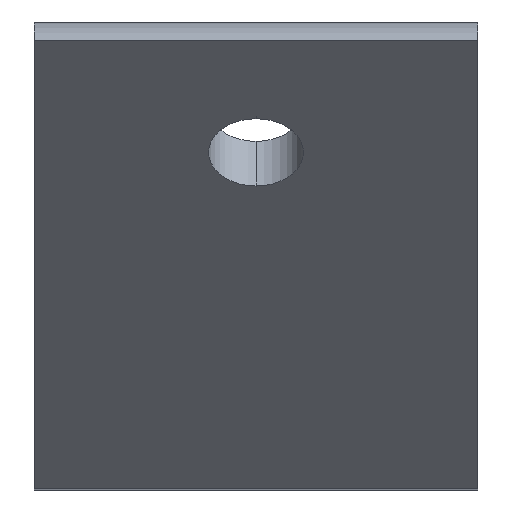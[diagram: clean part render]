
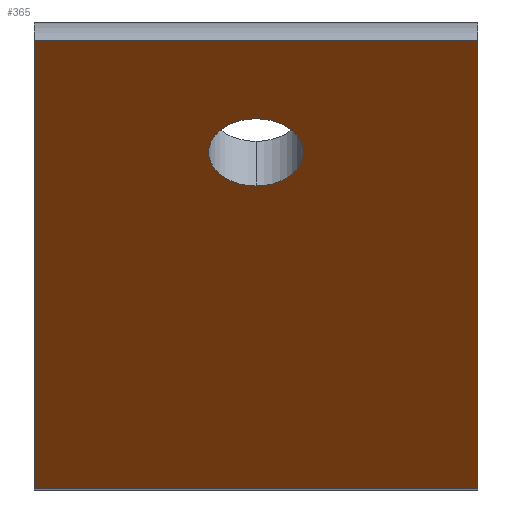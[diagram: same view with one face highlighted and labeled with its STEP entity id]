
A CAD part, top view. The second image highlights one B-rep face of the part: STEP entity #365.
In plain terms, the highlighted planar face has unit normal (0, -0.707, 0.707).
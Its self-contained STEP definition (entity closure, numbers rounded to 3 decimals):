
#13 = FACE_BOUND ( 'NONE', #432, .T. ) ;
#14 = CARTESIAN_POINT ( 'NONE',  ( 42., 21.855, 60.844 ) ) ;
#22 = CARTESIAN_POINT ( 'NONE',  ( 21., 14.431, 53.419 ) ) ;
#34 = EDGE_CURVE ( 'NONE', #613, #325, #269, .T. ) ;
#48 = EDGE_CURVE ( 'NONE', #325, #613, #507, .T. ) ;
#64 = AXIS2_PLACEMENT_3D ( 'NONE', #552, #658, #354 ) ;
#65 = VECTOR ( 'NONE', #123, 1000. ) ;
#96 = CARTESIAN_POINT ( 'NONE',  ( 21., 11.249, 50.237 ) ) ;
#97 = AXIS2_PLACEMENT_3D ( 'NONE', #96, #363, #566 ) ;
#123 = DIRECTION ( 'NONE',  ( 0., -0.707, -0.707 ) ) ;
#126 = VECTOR ( 'NONE', #183, 1000. ) ;
#134 = CARTESIAN_POINT ( 'NONE',  ( 21., 8.067, 47.055 ) ) ;
#142 = CARTESIAN_POINT ( 'NONE',  ( 42., 21.855, 60.844 ) ) ;
#151 = FACE_OUTER_BOUND ( 'NONE', #525, .T. ) ;
#169 = AXIS2_PLACEMENT_3D ( 'NONE', #505, #612, #392 ) ;
#179 = VECTOR ( 'NONE', #395, 1000. ) ;
#183 = DIRECTION ( 'NONE',  ( -1., 0., 0. ) ) ;
#215 = LINE ( 'NONE', #343, #65 ) ;
#216 = ORIENTED_EDGE ( 'NONE', *, *, #227, .F. ) ;
#227 = EDGE_CURVE ( 'NONE', #369, #478, #215, .T. ) ;
#234 = ORIENTED_EDGE ( 'NONE', *, *, #276, .F. ) ;
#240 = ORIENTED_EDGE ( 'NONE', *, *, #48, .T. ) ;
#247 = CARTESIAN_POINT ( 'NONE',  ( 0., 21.855, 60.844 ) ) ;
#262 = ORIENTED_EDGE ( 'NONE', *, *, #471, .T. ) ;
#269 = CIRCLE ( 'NONE', #169, 4.5 ) ;
#273 = LINE ( 'NONE', #14, #126 ) ;
#276 = EDGE_CURVE ( 'NONE', #478, #662, #458, .T. ) ;
#312 = LINE ( 'NONE', #440, #420 ) ;
#325 = VERTEX_POINT ( 'NONE', #22 ) ;
#343 = CARTESIAN_POINT ( 'NONE',  ( 42., -20.571, 18.418 ) ) ;
#353 = CARTESIAN_POINT ( 'NONE',  ( 0., -20.571, 18.418 ) ) ;
#354 = DIRECTION ( 'NONE',  ( 0., 0.707, 0.707 ) ) ;
#362 = VERTEX_POINT ( 'NONE', #247 ) ;
#363 = DIRECTION ( 'NONE',  ( 0., 0.707, -0.707 ) ) ;
#365 = ADVANCED_FACE ( 'NONE', ( #13, #151 ), #397, .F. ) ;
#369 = VERTEX_POINT ( 'NONE', #142 ) ;
#392 = DIRECTION ( 'NONE',  ( 0., 0.707, 0.707 ) ) ;
#394 = ORIENTED_EDGE ( 'NONE', *, *, #449, .T. ) ;
#395 = DIRECTION ( 'NONE',  ( -1., 0., 0. ) ) ;
#397 = PLANE ( 'NONE',  #64 ) ;
#420 = VECTOR ( 'NONE', #643, 1000. ) ;
#432 = EDGE_LOOP ( 'NONE', ( #240, #434 ) ) ;
#434 = ORIENTED_EDGE ( 'NONE', *, *, #34, .T. ) ;
#440 = CARTESIAN_POINT ( 'NONE',  ( 0., -20.571, 18.418 ) ) ;
#449 = EDGE_CURVE ( 'NONE', #362, #662, #312, .T. ) ;
#458 = LINE ( 'NONE', #601, #179 ) ;
#471 = EDGE_CURVE ( 'NONE', #369, #362, #273, .T. ) ;
#478 = VERTEX_POINT ( 'NONE', #491 ) ;
#491 = CARTESIAN_POINT ( 'NONE',  ( 42., -20.571, 18.418 ) ) ;
#505 = CARTESIAN_POINT ( 'NONE',  ( 21., 11.249, 50.237 ) ) ;
#507 = CIRCLE ( 'NONE', #97, 4.5 ) ;
#525 = EDGE_LOOP ( 'NONE', ( #394, #234, #216, #262 ) ) ;
#552 = CARTESIAN_POINT ( 'NONE',  ( 42., -20.571, 18.418 ) ) ;
#566 = DIRECTION ( 'NONE',  ( 0., 0.707, 0.707 ) ) ;
#601 = CARTESIAN_POINT ( 'NONE',  ( 42., -20.571, 18.418 ) ) ;
#612 = DIRECTION ( 'NONE',  ( 0., 0.707, -0.707 ) ) ;
#613 = VERTEX_POINT ( 'NONE', #134 ) ;
#643 = DIRECTION ( 'NONE',  ( 0., -0.707, -0.707 ) ) ;
#658 = DIRECTION ( 'NONE',  ( 0., 0.707, -0.707 ) ) ;
#662 = VERTEX_POINT ( 'NONE', #353 ) ;
